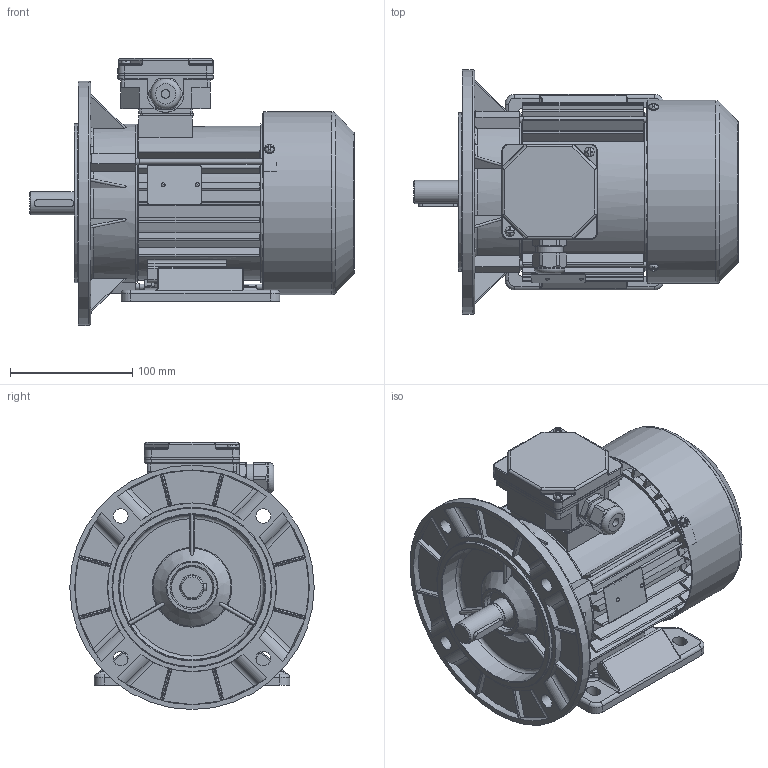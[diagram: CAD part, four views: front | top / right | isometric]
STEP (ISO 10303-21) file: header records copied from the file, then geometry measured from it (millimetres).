
FILE_DESCRIPTION(/* description */ ('Unknown'),/* implementation_level */ '2;1');
FILE_NAME(/* name */ 'SLh80-2A',/* time_stamp */ '2019-02-13T11:38:57+01:00',/* author */ ('Klaudiusz Szlosek'),/* organization */ ('BESEL S.A.'),/* preprocessor_version */ 'ST-DEVELOPER v16.7',/* originating_system */ 'DEX',/* authorisation */ $);
FILE_SCHEMA (('AUTOMOTIVE_DESIGN {1 0 10303 214 3 1 1}'));
Products named in the file (1): Czêœæ7
Bounding box: 265.77 x 200 x 218.5 mm (x, y, z)
Volume: 1086959.6 mm3; surface area: 546852.1 mm2
Topology: 2 solids, 2 shells, 2531 faces, 7185 edges, 4633 vertices
Faces by surface type: plane 1264, cylinder 876, bspline 144, torus 140, cone 89, sphere 18
Full cylindrical faces by diameter (mm): 2 x2, 2.4 x2, 3 x1, 3.7 x8, 4 x3, 4.5 x1, 4.6 x3, 4.8 x2, 5 x5, 5.5 x3, 6.5 x4, 7 x1, 8 x9, 12 x4, 18.596 x1, 18.996 x1, 19.296 x1, 19.496 x2, 19.896 x1, 20.296 x2, 20.396 x2, 20.4 x2, 22.3 x1, 25 x1, 25.495 x1, 25.645 x1, 25.995 x3, 26.045 x1, 28.796 x4, 34 x2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
Entity records: 102444 total; most frequent: CARTESIAN_POINT 20995, ORIENTED_EDGE 13622, DIRECTION 12827, EDGE_CURVE 6811, AXIS2_PLACEMENT_3D 4602, VERTEX_POINT 4520, LINE 3623, VECTOR 3623
